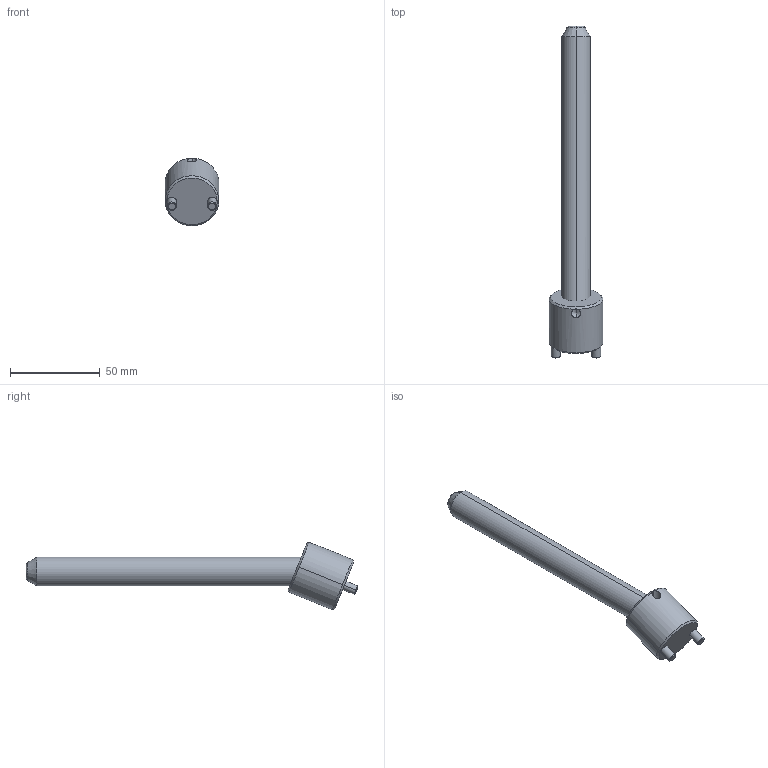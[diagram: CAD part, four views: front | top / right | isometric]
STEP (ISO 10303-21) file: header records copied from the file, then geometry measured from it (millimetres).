
FILE_DESCRIPTION(('CATIA V5 STEP Exchange'),'2;1');
FILE_NAME('C:\Users\Raffaele\Desktop\3D BOLEX\3D FILES CF BOLEX\19-INCLINED ASSEMBLY REF_CI\CI2216150.stp','2019-06-24T06:49:04+00:00',('none'),('none'),'CATIA Version 5 Release 20 GA (IN-10)','CATIA V5 STEP AP203','none');
FILE_SCHEMA(('CONFIG_CONTROL_DESIGN'));
Length unit declared in the file: millimetre
Products named in the file (1): CI2216150
Assembly tree (2 placements, depth 2):
  CI2216150
    #58
    #587
Bounding box: 30 x 184.79 x 37.53 mm (x, y, z)
Volume: 49420.7 mm3; surface area: 14456.7 mm2
Topology: 2 solids, 2 shells, 39 faces, 85 edges, 49 vertices
Faces by surface type: cone 14, cylinder 14, plane 7, torus 4
Entity records: 1504 total; most frequent: CARTESIAN_POINT 631, ORIENTED_EDGE 166, DIRECTION 146, EDGE_CURVE 83, AXIS2_PLACEMENT_3D 73, VERTEX_POINT 49, EDGE_LOOP 42, ADVANCED_FACE 39
